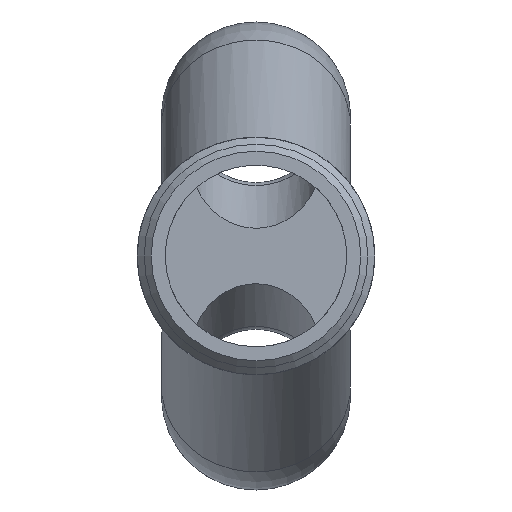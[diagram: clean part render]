
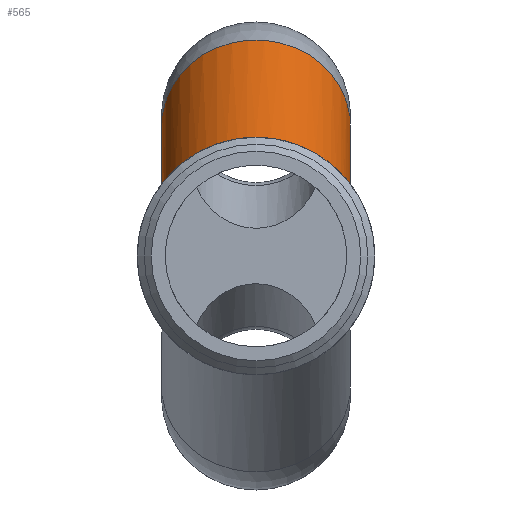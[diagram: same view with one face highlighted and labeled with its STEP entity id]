
A CAD part, left-side view. The second image highlights one B-rep face of the part: STEP entity #565.
In plain terms, the highlighted cylindrical face has radius 13.5 mm (diameter 27 mm), a partial arc.
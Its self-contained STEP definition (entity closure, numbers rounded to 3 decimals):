
#38=ELLIPSE('',#626,14.896,13.5);
#39=ELLIPSE('',#627,14.896,13.5);
#54=B_SPLINE_CURVE_WITH_KNOTS('',3,(#932,#933,#934,#935,#936),
 .UNSPECIFIED.,.F.,.F.,(4,1,4),(0.,0.002,0.003),
 .UNSPECIFIED.);
#55=B_SPLINE_CURVE_WITH_KNOTS('',3,(#938,#939,#940,#941,#942,#943,#944,
#945,#946,#947,#948,#949,#950,#951,#952,#953,#954,#955,#956,#957,#958,#959,
#960),.UNSPECIFIED.,.F.,.F.,(4,1,1,1,1,1,1,1,1,1,1,1,1,1,1,1,1,1,1,1,4),
(0.002,0.007,0.012,0.017,
0.021,0.024,0.026,0.031,
0.036,0.041,0.046,0.048,
0.051,0.053,0.055,0.058,
0.06,0.065,0.07,0.075,
0.08),.UNSPECIFIED.);
#56=B_SPLINE_CURVE_WITH_KNOTS('',3,(#962,#963,#964,#965,#966),
 .UNSPECIFIED.,.F.,.F.,(4,1,4),(0.,0.002,
0.003),.UNSPECIFIED.);
#70=LINE('',#926,#84);
#71=LINE('',#928,#85);
#84=VECTOR('',#727,1000.);
#85=VECTOR('',#728,1000.);
#108=ORIENTED_EDGE('',*,*,#261,.F.);
#109=ORIENTED_EDGE('',*,*,#260,.F.);
#110=ORIENTED_EDGE('',*,*,#262,.T.);
#111=ORIENTED_EDGE('',*,*,#263,.T.);
#112=ORIENTED_EDGE('',*,*,#264,.T.);
#113=ORIENTED_EDGE('',*,*,#265,.T.);
#114=ORIENTED_EDGE('',*,*,#266,.T.);
#115=ORIENTED_EDGE('',*,*,#267,.T.);
#260=EDGE_CURVE('',#336,#335,#390,.F.);
#261=EDGE_CURVE('',#335,#337,#70,.T.);
#262=EDGE_CURVE('',#336,#338,#71,.T.);
#263=EDGE_CURVE('',#338,#339,#38,.F.);
#264=EDGE_CURVE('',#339,#340,#54,.T.);
#265=EDGE_CURVE('',#340,#341,#55,.T.);
#266=EDGE_CURVE('',#341,#342,#56,.T.);
#267=EDGE_CURVE('',#342,#337,#39,.F.);
#335=VERTEX_POINT('',#921);
#336=VERTEX_POINT('',#923);
#337=VERTEX_POINT('',#927);
#338=VERTEX_POINT('',#929);
#339=VERTEX_POINT('',#931);
#340=VERTEX_POINT('',#937);
#341=VERTEX_POINT('',#961);
#342=VERTEX_POINT('',#967);
#390=CIRCLE('',#624,13.5);
#428=EDGE_LOOP('',(#108,#109,#110,#111,#112,#113,#114,#115));
#490=FACE_BOUND('',#428,.T.);
#550=CYLINDRICAL_SURFACE('',#625,13.5);
#565=ADVANCED_FACE('',(#490),#550,.T.);
#624=AXIS2_PLACEMENT_3D('',#924,#723,#724);
#625=AXIS2_PLACEMENT_3D('',#925,#725,#726);
#626=AXIS2_PLACEMENT_3D('',#930,#729,#730);
#627=AXIS2_PLACEMENT_3D('',#968,#731,#732);
#723=DIRECTION('',(-0.906,0.,-0.423));
#724=DIRECTION('',(0.,1.,0.));
#725=DIRECTION('',(-0.906,0.,-0.423));
#726=DIRECTION('',(-0.423,0.,0.906));
#727=DIRECTION('',(-0.906,0.,-0.423));
#728=DIRECTION('',(-0.906,0.,-0.423));
#729=DIRECTION('',(-1.,0.,0.));
#730=DIRECTION('',(0.,0.,-1.));
#731=DIRECTION('',(-1.,0.,0.));
#732=DIRECTION('',(0.,0.,-1.));
#921=CARTESIAN_POINT('',(57.226,-2.,6.588));
#923=CARTESIAN_POINT('',(57.226,2.,6.588));
#924=CARTESIAN_POINT('',(51.583,0.,18.688));
#925=CARTESIAN_POINT('',(51.583,0.,18.688));
#926=CARTESIAN_POINT('',(57.226,-2.,6.588));
#927=CARTESIAN_POINT('',(47.5,-2.,2.053));
#928=CARTESIAN_POINT('',(57.226,2.,6.588));
#929=CARTESIAN_POINT('',(47.5,2.,2.053));
#930=CARTESIAN_POINT('',(47.5,0.,16.784));
#931=CARTESIAN_POINT('',(47.5,11.711,9.373));
#932=CARTESIAN_POINT('',(47.5,11.711,9.373));
#933=CARTESIAN_POINT('',(47.5,11.963,9.859));
#934=CARTESIAN_POINT('',(47.119,12.477,10.823));
#935=CARTESIAN_POINT('',(46.042,12.759,11.234));
#936=CARTESIAN_POINT('',(45.5,12.816,11.169));
#937=CARTESIAN_POINT('',(45.5,12.816,11.169));
#938=CARTESIAN_POINT('',(45.5,12.816,11.169));
#939=CARTESIAN_POINT('',(43.899,12.982,10.978));
#940=CARTESIAN_POINT('',(40.692,13.264,10.637));
#941=CARTESIAN_POINT('',(35.841,13.511,10.318));
#942=CARTESIAN_POINT('',(30.982,13.516,10.31));
#943=CARTESIAN_POINT('',(26.935,13.175,10.758));
#944=CARTESIAN_POINT('',(23.874,12.477,11.56));
#945=CARTESIAN_POINT('',(21.005,11.365,12.699));
#946=CARTESIAN_POINT('',(18.197,9.007,14.624));
#947=CARTESIAN_POINT('',(16.381,4.79,16.549));
#948=CARTESIAN_POINT('',(15.827,-0.087,17.24));
#949=CARTESIAN_POINT('',(16.326,-4.15,16.616));
#950=CARTESIAN_POINT('',(17.347,-7.025,15.535));
#951=CARTESIAN_POINT('',(18.484,-8.954,14.5));
#952=CARTESIAN_POINT('',(19.976,-10.513,13.398));
#953=CARTESIAN_POINT('',(21.861,-11.709,12.35));
#954=CARTESIAN_POINT('',(24.016,-12.519,11.514));
#955=CARTESIAN_POINT('',(27.092,-13.196,10.732));
#956=CARTESIAN_POINT('',(31.14,-13.52,10.304));
#957=CARTESIAN_POINT('',(35.948,-13.507,10.324));
#958=CARTESIAN_POINT('',(40.734,-13.261,10.642));
#959=CARTESIAN_POINT('',(43.913,-12.981,10.98));
#960=CARTESIAN_POINT('',(45.5,-12.816,11.169));
#961=CARTESIAN_POINT('',(45.5,-12.816,11.169));
#962=CARTESIAN_POINT('',(45.5,-12.816,11.169));
#963=CARTESIAN_POINT('',(46.042,-12.759,11.234));
#964=CARTESIAN_POINT('',(47.118,-12.477,10.824));
#965=CARTESIAN_POINT('',(47.5,-11.963,9.859));
#966=CARTESIAN_POINT('',(47.5,-11.711,9.373));
#967=CARTESIAN_POINT('',(47.5,-11.711,9.373));
#968=CARTESIAN_POINT('',(47.5,0.,16.784));
